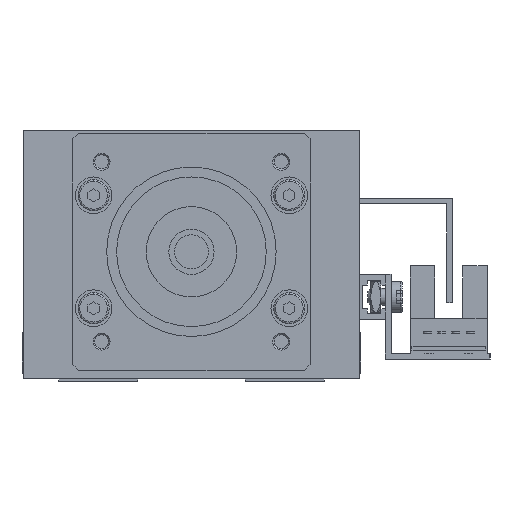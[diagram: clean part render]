
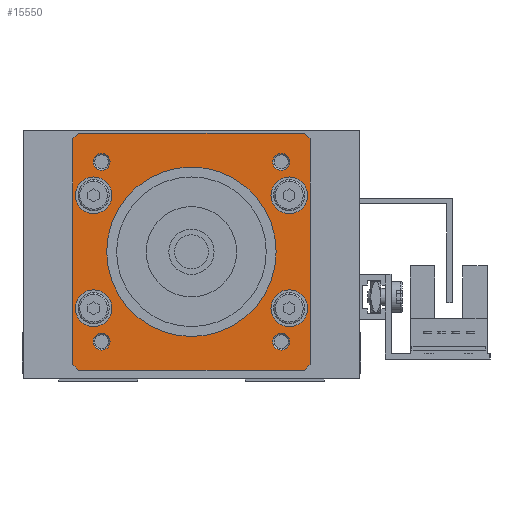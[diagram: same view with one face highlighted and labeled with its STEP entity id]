
A CAD part, left-side view. The second image highlights one B-rep face of the part: STEP entity #15550.
In plain terms, the highlighted planar face has unit normal (-1, 0, 0).
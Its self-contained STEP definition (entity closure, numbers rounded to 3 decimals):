
#10551=CARTESIAN_POINT('POINT641',(-69.,-15.,0.));
#10552=VERTEX_POINT('VERTEX641',#10551);
#10559=CARTESIAN_POINT('POINT642',(-69.,15.,
   0.));
#10560=VERTEX_POINT('VERTEX642',#10559);
#10561=CARTESIAN_POINT('POS1095',(-69.,0.,0.));
#10562=DIRECTION('DIR1612',(1.,0.,0.));
#10563=DIRECTION('DIR1613',(0.,-1.,0.));
#10564=AXIS2_PLACEMENT_3D('AXIS518',#10561,#10562,#10563);
#10565=CIRCLE('ELLIPSE209',#10564,15.);
#10566=EDGE_CURVE('EDGE986',#10560,#10552,#10565,.T.);
#10586=EDGE_CURVE('EDGE988',#10552,#10560,#10565,.T.);
#10591=CARTESIAN_POINT('POINT643',(-69.,-20.571,
   10.));
#10592=VERTEX_POINT('VERTEX643',#10591);
#10599=CARTESIAN_POINT('POINT644',(-69.,-14.071,
   10.));
#10600=VERTEX_POINT('VERTEX644',#10599);
#10601=CARTESIAN_POINT('POS1099',(-69.,-17.321,
   10.));
#10602=DIRECTION('DIR1618',(1.,0.,0.));
#10603=DIRECTION('DIR1619',(0.,-1.,0.));
#10604=AXIS2_PLACEMENT_3D('AXIS520',#10601,#10602,#10603);
#10605=CIRCLE('ELLIPSE210',#10604,3.25);
#10606=EDGE_CURVE('EDGE990',#10600,#10592,#10605,.T.);
#10626=EDGE_CURVE('EDGE992',#10592,#10600,#10605,.T.);
#10631=CARTESIAN_POINT('POINT645',(-69.,14.071,
   10.));
#10632=VERTEX_POINT('VERTEX645',#10631);
#10639=CARTESIAN_POINT('POINT646',(-69.,20.571,
   10.));
#10640=VERTEX_POINT('VERTEX646',#10639);
#10641=CARTESIAN_POINT('POS1103',(-69.,17.321,
   10.));
#10642=DIRECTION('DIR1624',(1.,0.,0.));
#10643=DIRECTION('DIR1625',(0.,-1.,0.));
#10644=AXIS2_PLACEMENT_3D('AXIS522',#10641,#10642,#10643);
#10645=CIRCLE('ELLIPSE211',#10644,3.25);
#10646=EDGE_CURVE('EDGE994',#10640,#10632,#10645,.T.);
#10666=EDGE_CURVE('EDGE996',#10632,#10640,#10645,.T.);
#10671=CARTESIAN_POINT('POINT647',(-69.,-20.571,
   -10.));
#10672=VERTEX_POINT('VERTEX647',#10671);
#10679=CARTESIAN_POINT('POINT648',(-69.,-14.071,
   -10.));
#10680=VERTEX_POINT('VERTEX648',#10679);
#10681=CARTESIAN_POINT('POS1107',(-69.,-17.321,
   -10.));
#10682=DIRECTION('DIR1630',(1.,0.,0.));
#10683=DIRECTION('DIR1631',(0.,-1.,0.));
#10684=AXIS2_PLACEMENT_3D('AXIS524',#10681,#10682,#10683);
#10685=CIRCLE('ELLIPSE212',#10684,3.25);
#10686=EDGE_CURVE('EDGE998',#10680,#10672,#10685,.T.);
#10706=EDGE_CURVE('EDGE1000',#10672,#10680,#10685,.T.);
#10711=CARTESIAN_POINT('POINT649',(-69.,14.071,
   -10.));
#10712=VERTEX_POINT('VERTEX649',#10711);
#10719=CARTESIAN_POINT('POINT650',(-69.,20.571,
   -10.));
#10720=VERTEX_POINT('VERTEX650',#10719);
#10721=CARTESIAN_POINT('POS1111',(-69.,17.321,
   -10.));
#10722=DIRECTION('DIR1636',(1.,0.,0.));
#10723=DIRECTION('DIR1637',(0.,-1.,0.));
#10724=AXIS2_PLACEMENT_3D('AXIS526',#10721,#10722,#10723);
#10725=CIRCLE('ELLIPSE213',#10724,3.25);
#10726=EDGE_CURVE('EDGE1002',#10720,#10712,#10725,.T.);
#10746=EDGE_CURVE('EDGE1004',#10712,#10720,#10725,.T.);
#10751=CARTESIAN_POINT('POINT651',(-69.,-14.41,
   15.91));
#10752=VERTEX_POINT('VERTEX651',#10751);
#10760=CARTESIAN_POINT('POINT652',(-69.,-17.41,
   15.91));
#10761=VERTEX_POINT('VERTEX652',#10760);
#10768=CARTESIAN_POINT('POS1116',(-69.,-15.91,
   15.91));
#10769=DIRECTION('DIR1643',(1.,0.,0.));
#10770=DIRECTION('DIR1644',(0.,-1.,0.));
#10771=AXIS2_PLACEMENT_3D('AXIS528',#10768,#10769,#10770);
#10772=CIRCLE('ELLIPSE214',#10771,1.5);
#10773=EDGE_CURVE('EDGE1007',#10752,#10761,#10772,.T.);
#10784=EDGE_CURVE('EDGE1008',#10761,#10752,#10772,.T.);
#10791=CARTESIAN_POINT('POINT653',(-69.,17.41,
   15.91));
#10792=VERTEX_POINT('VERTEX653',#10791);
#10800=CARTESIAN_POINT('POINT654',(-69.,14.41,
   15.91));
#10801=VERTEX_POINT('VERTEX654',#10800);
#10808=CARTESIAN_POINT('POS1120',(-69.,15.91,
   15.91));
#10809=DIRECTION('DIR1649',(1.,0.,0.));
#10810=DIRECTION('DIR1650',(0.,-1.,0.));
#10811=AXIS2_PLACEMENT_3D('AXIS530',#10808,#10809,#10810);
#10812=CIRCLE('ELLIPSE215',#10811,1.5);
#10813=EDGE_CURVE('EDGE1011',#10792,#10801,#10812,.T.);
#10824=EDGE_CURVE('EDGE1012',#10801,#10792,#10812,.T.);
#10831=CARTESIAN_POINT('POINT655',(-69.,-14.41,
   -15.91));
#10832=VERTEX_POINT('VERTEX655',#10831);
#10840=CARTESIAN_POINT('POINT656',(-69.,-17.41,
   -15.91));
#10841=VERTEX_POINT('VERTEX656',#10840);
#10848=CARTESIAN_POINT('POS1124',(-69.,-15.91,
   -15.91));
#10849=DIRECTION('DIR1655',(1.,0.,0.));
#10850=DIRECTION('DIR1656',(0.,-1.,0.));
#10851=AXIS2_PLACEMENT_3D('AXIS532',#10848,#10849,#10850);
#10852=CIRCLE('ELLIPSE216',#10851,1.5);
#10853=EDGE_CURVE('EDGE1015',#10832,#10841,#10852,.T.);
#10864=EDGE_CURVE('EDGE1016',#10841,#10832,#10852,.T.);
#10871=CARTESIAN_POINT('POINT657',(-69.,17.41,
   -15.91));
#10872=VERTEX_POINT('VERTEX657',#10871);
#10880=CARTESIAN_POINT('POINT658',(-69.,14.41,
   -15.91));
#10881=VERTEX_POINT('VERTEX658',#10880);
#10888=CARTESIAN_POINT('POS1128',(-69.,15.91,
   -15.91));
#10889=DIRECTION('DIR1661',(1.,0.,0.));
#10890=DIRECTION('DIR1662',(0.,-1.,0.));
#10891=AXIS2_PLACEMENT_3D('AXIS534',#10888,#10889,#10890);
#10892=CIRCLE('ELLIPSE217',#10891,1.5);
#10893=EDGE_CURVE('EDGE1019',#10872,#10881,#10892,.T.);
#10904=EDGE_CURVE('EDGE1020',#10881,#10872,#10892,.T.);
#15443=ORIENTED_EDGE('COEDGE2625',*,*,#10904,.T.);
#15444=ORIENTED_EDGE('COEDGE2626',*,*,#10893,.T.);
#15445=EDGE_LOOP('NONE',(#15443,#15444));
#15446=FACE_BOUND('LOOP1',#15445,.T.);
#15447=ORIENTED_EDGE('COEDGE2627',*,*,#10864,.T.);
#15448=ORIENTED_EDGE('COEDGE2628',*,*,#10853,.T.);
#15449=EDGE_LOOP('NONE',(#15447,#15448));
#15450=FACE_BOUND('LOOP1',#15449,.T.);
#15451=ORIENTED_EDGE('COEDGE2629',*,*,#10824,.T.);
#15452=ORIENTED_EDGE('COEDGE2630',*,*,#10813,.T.);
#15453=EDGE_LOOP('NONE',(#15451,#15452));
#15454=FACE_BOUND('LOOP1',#15453,.T.);
#15455=ORIENTED_EDGE('COEDGE2631',*,*,#10784,.T.);
#15456=ORIENTED_EDGE('COEDGE2632',*,*,#10773,.T.);
#15457=EDGE_LOOP('NONE',(#15455,#15456));
#15458=FACE_BOUND('LOOP1',#15457,.T.);
#15459=ORIENTED_EDGE('COEDGE2633',*,*,#10746,.T.);
#15460=ORIENTED_EDGE('COEDGE2634',*,*,#10726,.T.);
#15461=EDGE_LOOP('NONE',(#15459,#15460));
#15462=FACE_BOUND('LOOP1',#15461,.T.);
#15463=ORIENTED_EDGE('COEDGE2635',*,*,#10706,.T.);
#15464=ORIENTED_EDGE('COEDGE2636',*,*,#10686,.T.);
#15465=EDGE_LOOP('NONE',(#15463,#15464));
#15466=FACE_BOUND('LOOP1',#15465,.T.);
#15467=ORIENTED_EDGE('COEDGE2637',*,*,#10666,.T.);
#15468=ORIENTED_EDGE('COEDGE2638',*,*,#10646,.T.);
#15469=EDGE_LOOP('NONE',(#15467,#15468));
#15470=FACE_BOUND('LOOP1',#15469,.T.);
#15471=ORIENTED_EDGE('COEDGE2639',*,*,#10626,.T.);
#15472=ORIENTED_EDGE('COEDGE2640',*,*,#10606,.T.);
#15473=EDGE_LOOP('NONE',(#15471,#15472));
#15474=FACE_BOUND('LOOP1',#15473,.T.);
#15475=ORIENTED_EDGE('COEDGE2641',*,*,#10586,.T.);
#15476=ORIENTED_EDGE('COEDGE2642',*,*,#10566,.T.);
#15477=EDGE_LOOP('NONE',(#15475,#15476));
#15478=FACE_BOUND('LOOP1',#15477,.T.);
#15479=CARTESIAN_POINT('POINT965',(-69.,19.995,20.995));
#15480=VERTEX_POINT('VERTEX965',#15479);
#15481=CARTESIAN_POINT('POINT966',(-69.,-19.995,20.995));
#15482=VERTEX_POINT('VERTEX966',#15481);
#15483=CARTESIAN_POINT('POS1576',(-69.,0.,20.995));
#15484=DIRECTION('DIR2338',(0.,-1.,0.));
#15485=VECTOR('VEC814',#15484,1.);
#15486=LINE('STRAIGHT814',#15483,#15485);
#15487=EDGE_CURVE('EDGE1465',#15480,#15482,#15486,.T.);
#15488=ORIENTED_EDGE('COEDGE2643',*,*,#15487,.F.);
#15489=CARTESIAN_POINT('POINT967',(-69.,20.995,19.995));
#15490=VERTEX_POINT('VERTEX967',#15489);
#15491=CARTESIAN_POINT('POS1577',(-69.,20.995,19.995));
#15492=DIRECTION('DIR2339',(0.,-0.707,
   0.707));
#15493=VECTOR('VEC815',#15492,1.);
#15494=LINE('STRAIGHT815',#15491,#15493);
#15495=EDGE_CURVE('EDGE1466',#15490,#15480,#15494,.T.);
#15496=ORIENTED_EDGE('COEDGE2644',*,*,#15495,.F.);
#15497=CARTESIAN_POINT('POINT968',(-69.,20.995,-19.995));
#15498=VERTEX_POINT('VERTEX968',#15497);
#15499=CARTESIAN_POINT('POS1578',(-69.,20.995,-19.995));
#15500=DIRECTION('DIR2340',(0.,0.,1.));
#15501=VECTOR('VEC816',#15500,1.);
#15502=LINE('STRAIGHT816',#15499,#15501);
#15503=EDGE_CURVE('EDGE1467',#15498,#15490,#15502,.T.);
#15504=ORIENTED_EDGE('COEDGE2645',*,*,#15503,.F.);
#15505=CARTESIAN_POINT('POINT969',(-69.,19.995,-20.995));
#15506=VERTEX_POINT('VERTEX969',#15505);
#15507=CARTESIAN_POINT('POS1579',(-69.,19.995,-20.995));
#15508=DIRECTION('DIR2341',(0.,0.707,
   0.707));
#15509=VECTOR('VEC817',#15508,1.);
#15510=LINE('STRAIGHT817',#15507,#15509);
#15511=EDGE_CURVE('EDGE1468',#15506,#15498,#15510,.T.);
#15512=ORIENTED_EDGE('COEDGE2646',*,*,#15511,.F.);
#15513=CARTESIAN_POINT('POINT970',(-69.,-19.995,-20.995))
   ;
#15514=VERTEX_POINT('VERTEX970',#15513);
#15515=CARTESIAN_POINT('POS1580',(-69.,-19.995,-20.995));
#15516=DIRECTION('DIR2342',(0.,1.,0.));
#15517=VECTOR('VEC818',#15516,1.);
#15518=LINE('STRAIGHT818',#15515,#15517);
#15519=EDGE_CURVE('EDGE1469',#15514,#15506,#15518,.T.);
#15520=ORIENTED_EDGE('COEDGE2647',*,*,#15519,.F.);
#15521=CARTESIAN_POINT('POINT971',(-69.,-20.995,-19.995))
   ;
#15522=VERTEX_POINT('VERTEX971',#15521);
#15523=CARTESIAN_POINT('POS1581',(-69.,-20.995,-19.995));
#15524=DIRECTION('DIR2343',(0.,0.707,
   -0.707));
#15525=VECTOR('VEC819',#15524,1.);
#15526=LINE('STRAIGHT819',#15523,#15525);
#15527=EDGE_CURVE('EDGE1470',#15522,#15514,#15526,.T.);
#15528=ORIENTED_EDGE('COEDGE2648',*,*,#15527,.F.);
#15529=CARTESIAN_POINT('POINT972',(-69.,-20.995,19.995));
#15530=VERTEX_POINT('VERTEX972',#15529);
#15531=CARTESIAN_POINT('POS1582',(-69.,-20.995,19.995));
#15532=DIRECTION('DIR2344',(0.,0.,-1.));
#15533=VECTOR('VEC820',#15532,1.);
#15534=LINE('STRAIGHT820',#15531,#15533);
#15535=EDGE_CURVE('EDGE1471',#15530,#15522,#15534,.T.);
#15536=ORIENTED_EDGE('COEDGE2649',*,*,#15535,.F.);
#15537=CARTESIAN_POINT('POS1583',(-69.,-19.995,20.995));
#15538=DIRECTION('DIR2345',(0.,-0.707,
   -0.707));
#15539=VECTOR('VEC821',#15538,1.);
#15540=LINE('STRAIGHT821',#15537,#15539);
#15541=EDGE_CURVE('EDGE1472',#15482,#15530,#15540,.T.);
#15542=ORIENTED_EDGE('COEDGE2650',*,*,#15541,.F.);
#15543=EDGE_LOOP('NONE',(#15488,#15496,#15504,#15512,#15520,#15528,
   #15536,#15542));
#15544=FACE_BOUND('LOOP1',#15543,.T.);
#15545=CARTESIAN_POINT('POS1584',(-69.,0.,
   0.));
#15546=DIRECTION('DIR2346',(1.,0.,0.));
#15547=DIRECTION('DIR2347',(0.,1.,0.));
#15548=AXIS2_PLACEMENT_3D('AXIS763',#15545,#15546,#15547);
#15549=PLANE('PLANE274',#15548);
#15550=ADVANCED_FACE('FACE627',(#15446,#15450,#15454,#15458,#15462,
   #15466,#15470,#15474,#15478,#15544),#15549,.F.);
